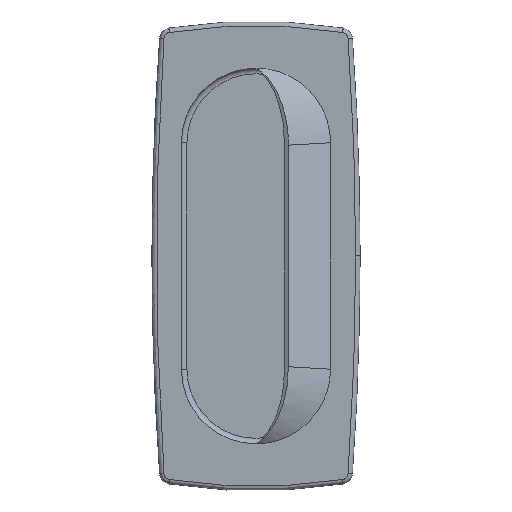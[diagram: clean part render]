
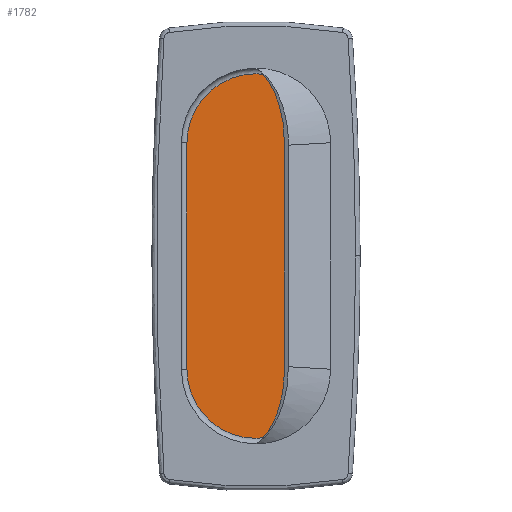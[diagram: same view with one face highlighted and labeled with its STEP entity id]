
A CAD part, top view. The second image highlights one B-rep face of the part: STEP entity #1782.
In plain terms, the highlighted planar face has unit normal (0, 0, 1).
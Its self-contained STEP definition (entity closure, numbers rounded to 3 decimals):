
#49 = DIRECTION ( 'NONE',  ( 0., 0., 1. ) ) ;
#70 = AXIS2_PLACEMENT_3D ( 'NONE', #365, #2160, #1393 ) ;
#106 = LINE ( 'NONE', #1408, #1594 ) ;
#124 = ORIENTED_EDGE ( 'NONE', *, *, #976, .F. ) ;
#178 = EDGE_CURVE ( 'NONE', #890, #949, #106, .T. ) ;
#221 = DIRECTION ( 'NONE',  ( 0., 1., 0. ) ) ;
#234 = ORIENTED_EDGE ( 'NONE', *, *, #1995, .F. ) ;
#286 = DIRECTION ( 'NONE',  ( 1., 0., 0. ) ) ;
#300 = VECTOR ( 'NONE', #221, 1000. ) ;
#365 = CARTESIAN_POINT ( 'NONE',  ( 0., 20.5, 1. ) ) ;
#588 = VERTEX_POINT ( 'NONE', #1864 ) ;
#627 = EDGE_CURVE ( 'NONE', #588, #1933, #2391, .T. ) ;
#806 = EDGE_LOOP ( 'NONE', ( #124, #1600, #234, #874 ) ) ;
#874 = ORIENTED_EDGE ( 'NONE', *, *, #178, .T. ) ;
#890 = VERTEX_POINT ( 'NONE', #1350 ) ;
#899 = CARTESIAN_POINT ( 'NONE',  ( 0., -20.5, 1. ) ) ;
#941 = AXIS2_PLACEMENT_3D ( 'NONE', #1270, #49, #286 ) ;
#949 = VERTEX_POINT ( 'NONE', #1609 ) ;
#976 = EDGE_CURVE ( 'NONE', #588, #949, #982, .T. ) ;
#982 = CIRCLE ( 'NONE', #2095, 12.5 ) ;
#1151 = CARTESIAN_POINT ( 'NONE',  ( 12.5, 20.5, 1. ) ) ;
#1270 = CARTESIAN_POINT ( 'NONE',  ( 0., 0., 1. ) ) ;
#1350 = CARTESIAN_POINT ( 'NONE',  ( -12.5, 20.5, 1. ) ) ;
#1374 = CIRCLE ( 'NONE', #70, 12.5 ) ;
#1393 = DIRECTION ( 'NONE',  ( 1., 0., 0. ) ) ;
#1408 = CARTESIAN_POINT ( 'NONE',  ( -12.5, 10.25, 1. ) ) ;
#1594 = VECTOR ( 'NONE', #2217, 1000. ) ;
#1600 = ORIENTED_EDGE ( 'NONE', *, *, #627, .T. ) ;
#1609 = CARTESIAN_POINT ( 'NONE',  ( -12.5, -20.5, 1. ) ) ;
#1685 = DIRECTION ( 'NONE',  ( 1., 0., 0. ) ) ;
#1782 = ADVANCED_FACE ( 'NONE', ( #1823 ), #2032, .T. ) ;
#1823 = FACE_OUTER_BOUND ( 'NONE', #806, .T. ) ;
#1864 = CARTESIAN_POINT ( 'NONE',  ( 12.5, -20.5, 1. ) ) ;
#1876 = DIRECTION ( 'NONE',  ( 0., 0., -1. ) ) ;
#1933 = VERTEX_POINT ( 'NONE', #1151 ) ;
#1995 = EDGE_CURVE ( 'NONE', #890, #1933, #1374, .T. ) ;
#2032 = PLANE ( 'NONE',  #941 ) ;
#2095 = AXIS2_PLACEMENT_3D ( 'NONE', #899, #1876, #1685 ) ;
#2160 = DIRECTION ( 'NONE',  ( 0., 0., -1. ) ) ;
#2185 = CARTESIAN_POINT ( 'NONE',  ( 12.5, 0., 1. ) ) ;
#2217 = DIRECTION ( 'NONE',  ( 0., -1., 0. ) ) ;
#2391 = LINE ( 'NONE', #2185, #300 ) ;
